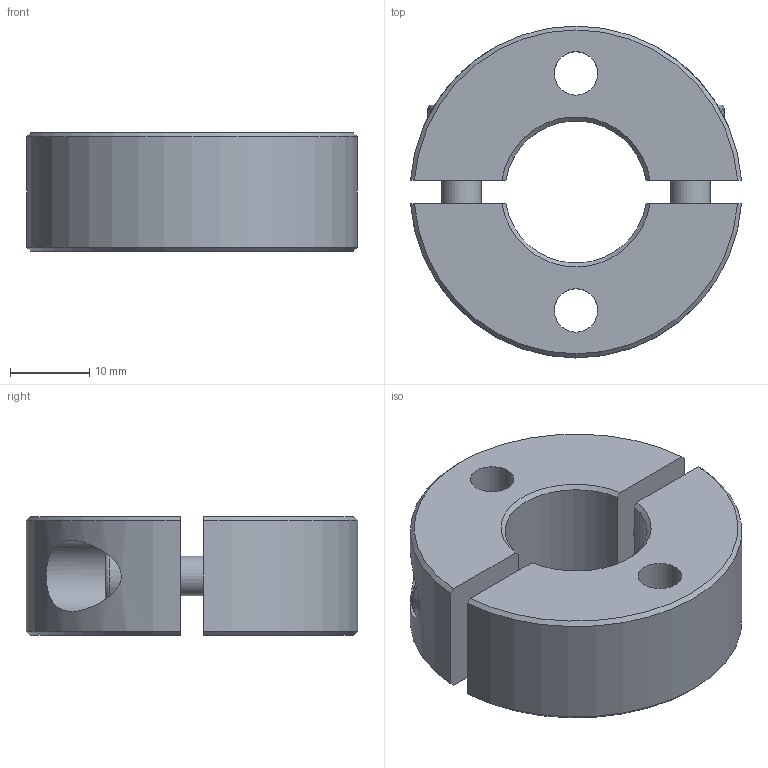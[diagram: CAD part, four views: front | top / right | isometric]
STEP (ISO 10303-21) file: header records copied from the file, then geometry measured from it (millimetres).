
FILE_DESCRIPTION( ( 'STEP AP203' ), '1' );
FILE_NAME( 'C:/Temp/Ganter_Step_05_03_2020/data/3_2/gn7072_2/Split Stainless Steel-Set collar GN 7072.2-42-B18-NI-A.stp', '2020-03-13T05:40:50', ( 'License CC BY-ND 4.0' ), ( 'CADENAS' ), ' ', 'PARTsolutions', ' ' );
FILE_SCHEMA( ( 'CONFIG_CONTROL_DESIGN' ) );
Length unit declared in the file: millimetre
Products named in the file (1): _Split Stainless Steel-Set collar GN 7072.2-42-B18-NI-A
Bounding box: 41.89 x 42 x 15 mm (x, y, z)
Volume: 14571.3 mm3; surface area: 6877.3 mm2
Topology: 1 solids, 1 shells, 52 faces, 124 edges, 84 vertices
Faces by surface type: plane 28, cylinder 14, cone 8, torus 2
Full cylindrical faces by diameter (mm): 5 x2, 5.4 x2, 5.5 x2, 8.5 x2, 9 x2
Entity records: 1624 total; most frequent: CARTESIAN_POINT 439, DIRECTION 230, ORIENTED_EDGE 212, EDGE_CURVE 106, AXIS2_PLACEMENT_3D 89, EDGE_LOOP 80, VERTEX_POINT 78, FACE_OUTER_BOUND 64
